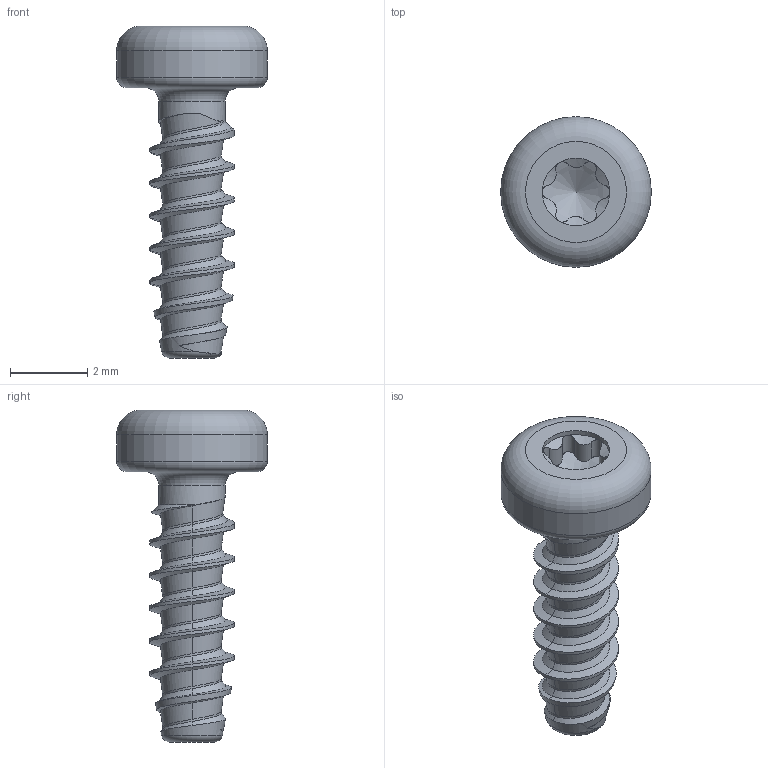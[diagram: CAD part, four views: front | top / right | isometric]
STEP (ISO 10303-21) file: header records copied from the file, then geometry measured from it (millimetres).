
FILE_DESCRIPTION(/* description */ (''),/* implementation_level */ '2;1');
FILE_NAME(/* name */ 'KN6039-STSplus-22x7-T6.step',/* time_stamp */ '2017-10-11T10:51:28+02:00',/* author */ (''),/* organization */ (''),/* preprocessor_version */ 'ST-DEVELOPER v16',/* originating_system */ 'SIEMENS PLM Software NX 10.0',/* authorisation */ '');
FILE_SCHEMA (('AUTOMOTIVE_DESIGN { 1 0 10303 214 3 1 1 1 }'));
Length unit declared in the file: millimetre
Products named in the file (1): KN6039-STSplus-22x7-T6
Bounding box: 3.9 x 3.9 x 8.6 mm (x, y, z)
Volume: 32.3 mm3; surface area: 93.4 mm2
Topology: 1 solids, 1 shells, 66 faces, 166 edges, 103 vertices
Faces by surface type: bspline 32, cylinder 17, cone 9, torus 4, plane 4
Full cylindrical faces by diameter (mm): 1.72 x1, 1.75 x1, 3.9 x1
Entity records: 4266 total; most frequent: CARTESIAN_POINT 2998, ORIENTED_EDGE 308, EDGE_CURVE 154, DIRECTION 147, VERTEX_POINT 100, B_SPLINE_CURVE_WITH_KNOTS 96, EDGE_LOOP 75, ADVANCED_FACE 66
